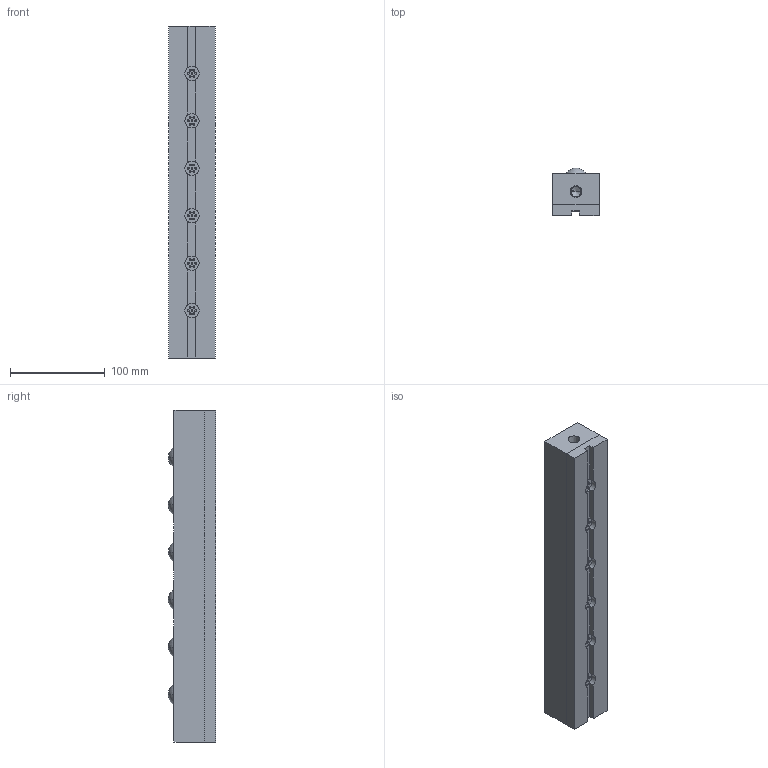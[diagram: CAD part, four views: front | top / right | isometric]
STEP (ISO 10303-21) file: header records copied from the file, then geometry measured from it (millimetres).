
FILE_DESCRIPTION (( 'STEP AP203' ), '1' );
FILE_NAME ('PVL55SH-6.STEP', '2016-01-25T01:09:09', ( '' ), ( '' ), 'SwSTEP 2.0', 'SolidWorks 2013', '' );
FILE_SCHEMA (( 'CONFIG_CONTROL_DESIGN' ));
Length unit declared in the file: millimetre
Products named in the file (1): PVL55SH-6
Bounding box: 49 x 50 x 350 mm (x, y, z)
Volume: 736567.6 mm3; surface area: 123225 mm2
Topology: 2 solids, 2 shells, 289 faces, 628 edges, 419 vertices
Faces by surface type: cylinder 162, plane 111, sphere 12, cone 4
Entity records: 8167 total; most frequent: DIRECTION 1582, CARTESIAN_POINT 1335, ORIENTED_EDGE 1252, AXIS2_PLACEMENT_3D 666, EDGE_CURVE 626, VERTEX_POINT 419, CIRCLE 376, EDGE_LOOP 375
